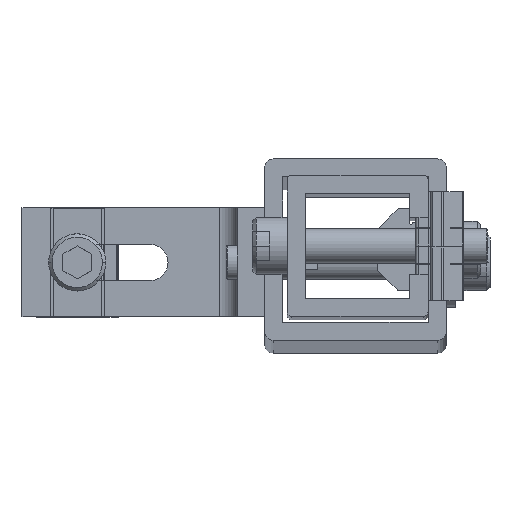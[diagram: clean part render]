
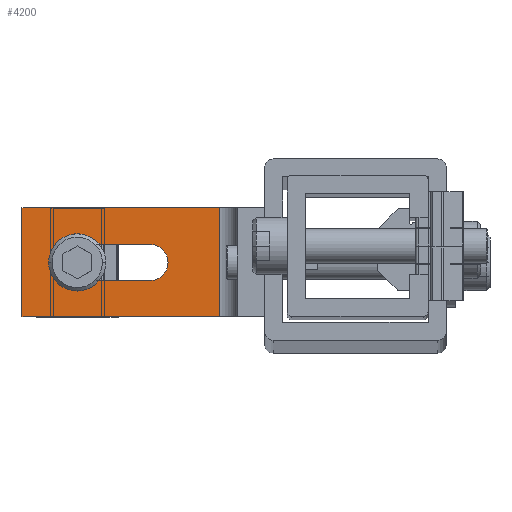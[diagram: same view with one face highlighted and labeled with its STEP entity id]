
A CAD part, top view. The second image highlights one B-rep face of the part: STEP entity #4200.
In plain terms, the highlighted planar face has unit normal (0, 0, 1) as drawn and (-1, 0, 0) by its records, which use the part's own axes.
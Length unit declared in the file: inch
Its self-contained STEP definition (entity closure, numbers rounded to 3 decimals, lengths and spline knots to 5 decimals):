
#3847=DIRECTION('',(0.,-1.,0.));
#3848=VECTOR('',#3847,1.3575);
#3849=CARTESIAN_POINT('',(-0.1875,1.67,-0.375));
#3850=LINE('',#3849,#3848);
#3877=DIRECTION('',(0.,-1.,0.));
#3878=VECTOR('',#3877,1.3575);
#3879=CARTESIAN_POINT('',(-0.1875,1.67,0.375));
#3880=LINE('',#3879,#3878);
#3881=DIRECTION('',(0.,0.,1.));
#3882=VECTOR('',#3881,0.75);
#3883=CARTESIAN_POINT('',(-0.1875,1.67,-0.375));
#3884=LINE('',#3883,#3882);
#3885=DIRECTION('',(0.,1.,0.));
#3886=VECTOR('',#3885,0.5);
#3887=CARTESIAN_POINT('',(-0.1875,0.79,0.125));
#3888=LINE('',#3887,#3886);
#3889=CARTESIAN_POINT('',(-0.1875,1.29,0.));
#3890=DIRECTION('',(-1.,0.,0.));
#3891=DIRECTION('',(0.,0.,1.));
#3892=AXIS2_PLACEMENT_3D('',#3889,#3890,#3891);
#3894=DIRECTION('',(0.,-1.,0.));
#3895=VECTOR('',#3894,0.5);
#3896=CARTESIAN_POINT('',(-0.1875,1.29,-0.125));
#3897=LINE('',#3896,#3895);
#3898=CARTESIAN_POINT('',(-0.1875,0.79,0.));
#3899=DIRECTION('',(-1.,0.,0.));
#3900=DIRECTION('',(0.,0.,-1.));
#3901=AXIS2_PLACEMENT_3D('',#3898,#3899,#3900);
#3907=DIRECTION('',(0.,0.,1.));
#3908=VECTOR('',#3907,0.75);
#3909=CARTESIAN_POINT('',(-0.1875,0.3125,-0.375));
#3910=LINE('',#3909,#3908);
#3983=CARTESIAN_POINT('',(-0.1875,0.3125,0.375));
#3984=VERTEX_POINT('',#3983);
#3999=CARTESIAN_POINT('',(-0.1875,0.3125,-0.375));
#4000=VERTEX_POINT('',#3999);
#4003=CARTESIAN_POINT('',(-0.1875,1.67,-0.375));
#4004=VERTEX_POINT('',#4003);
#4015=CARTESIAN_POINT('',(-0.1875,1.67,0.375));
#4016=VERTEX_POINT('',#4015);
#4017=CARTESIAN_POINT('',(-0.1875,0.79,0.125));
#4018=CARTESIAN_POINT('',(-0.1875,1.29,0.125));
#4019=VERTEX_POINT('',#4017);
#4020=VERTEX_POINT('',#4018);
#4021=CARTESIAN_POINT('',(-0.1875,1.29,-0.125));
#4022=VERTEX_POINT('',#4021);
#4023=CARTESIAN_POINT('',(-0.1875,0.79,-0.125));
#4024=VERTEX_POINT('',#4023);
#4177=CARTESIAN_POINT('',(-0.1875,0.3125,0.375));
#4178=DIRECTION('',(1.,0.,0.));
#4179=DIRECTION('',(0.,1.,0.));
#4180=AXIS2_PLACEMENT_3D('',#4177,#4178,#4179);
#4181=PLANE('',#4180);
#4182=ORIENTED_EDGE('',*,*,#4170,.T.);
#4184=ORIENTED_EDGE('',*,*,#4183,.F.);
#4185=ORIENTED_EDGE('',*,*,#4133,.F.);
#4187=ORIENTED_EDGE('',*,*,#4186,.T.);
#4188=EDGE_LOOP('',(#4182,#4184,#4185,#4187));
#4189=FACE_OUTER_BOUND('',#4188,.F.);
#4191=ORIENTED_EDGE('',*,*,#4190,.T.);
#4193=ORIENTED_EDGE('',*,*,#4192,.T.);
#4195=ORIENTED_EDGE('',*,*,#4194,.T.);
#4197=ORIENTED_EDGE('',*,*,#4196,.T.);
#4198=EDGE_LOOP('',(#4191,#4193,#4195,#4197));
#4199=FACE_BOUND('',#4198,.F.);
#3893=CIRCLE('',#3892,0.125);
#3902=CIRCLE('',#3901,0.125);
#4133=EDGE_CURVE('',#4004,#4000,#3850,.T.);
#4170=EDGE_CURVE('',#4016,#3984,#3880,.T.);
#4183=EDGE_CURVE('',#4000,#3984,#3910,.T.);
#4186=EDGE_CURVE('',#4004,#4016,#3884,.T.);
#4190=EDGE_CURVE('',#4019,#4020,#3888,.T.);
#4192=EDGE_CURVE('',#4020,#4022,#3893,.T.);
#4194=EDGE_CURVE('',#4022,#4024,#3897,.T.);
#4196=EDGE_CURVE('',#4024,#4019,#3902,.T.);
#4200=ADVANCED_FACE('',(#4189,#4199),#4181,.F.);
